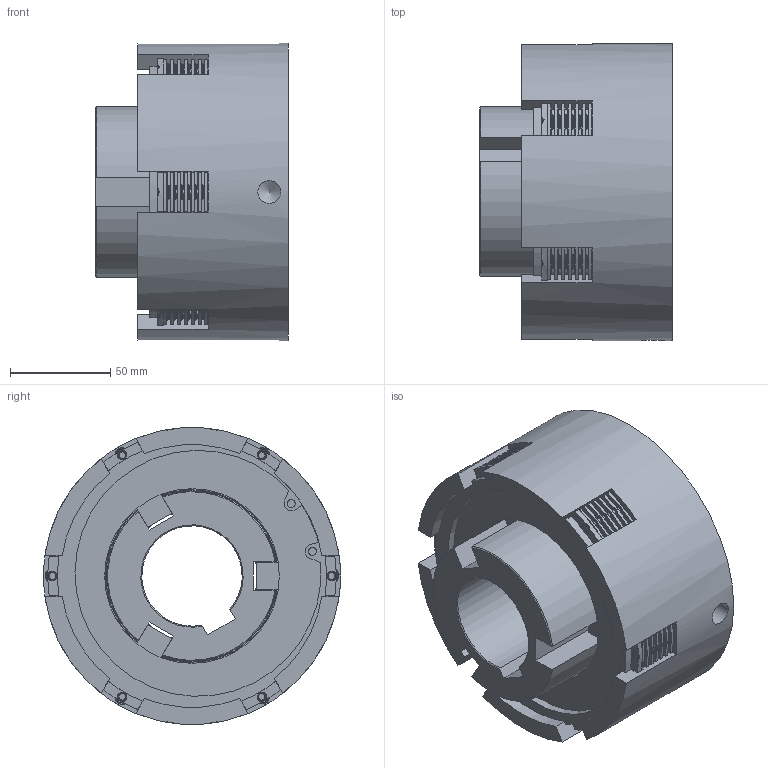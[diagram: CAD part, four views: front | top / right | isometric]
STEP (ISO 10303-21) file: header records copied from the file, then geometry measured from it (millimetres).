
FILE_DESCRIPTION(/* description */ (''),/* implementation_level */ '2;1');
FILE_NAME(/* name */ 'T:\INVENTOR\DISEGNI\03_Friz_Oleod_Pneum_Cil_Stat\03_05 FPL-BF\03_05_006_01 FPL06-BF\03_05_006_01 FPL06@STEP.stp',/* time_stamp */ '2021-07-05T10:16:22+02:00',/* author */ ('w.sartori'),/* organization */ (''),/* preprocessor_version */ 'ST-DEVELOPER v18.1',/* originating_system */ 'Autodesk Inventor 2021',/* authorisation */ '');
FILE_SCHEMA (('AUTOMOTIVE_DESIGN { 1 0 10303 214 3 1 1 }'));
Products named in the file (1): 03_05_006_01 FPL06-V2013
Bounding box: 96 x 148 x 148 mm (x, y, z)
Volume: 950272.9 mm3; surface area: 364526.2 mm2
Topology: 31 solids, 33 shells, 2259 faces, 6057 edges, 4000 vertices
Faces by surface type: plane 1251, bspline 666, cylinder 266, cone 60, torus 16
Full cylindrical faces by diameter (mm): 2 x6, 2.75 x48, 3.5 x6, 4 x2, 4.917 x9, 6 x1, 11.445 x1, 65 x1, 75 x4, 76.806 x1, 82.806 x1, 85 x2, 86 x1, 87 x1, 98 x7, 100 x1, 105 x1, 115 x2, 118 x1, 125 x6, 127 x1, 130 x4, 148 x1
Entity records: 86832 total; most frequent: CARTESIAN_POINT 31812, ORIENTED_EDGE 12082, DIRECTION 8673, EDGE_CURVE 6041, VERTEX_POINT 4000, LINE 3821, VECTOR 3821, EDGE_LOOP 2561
